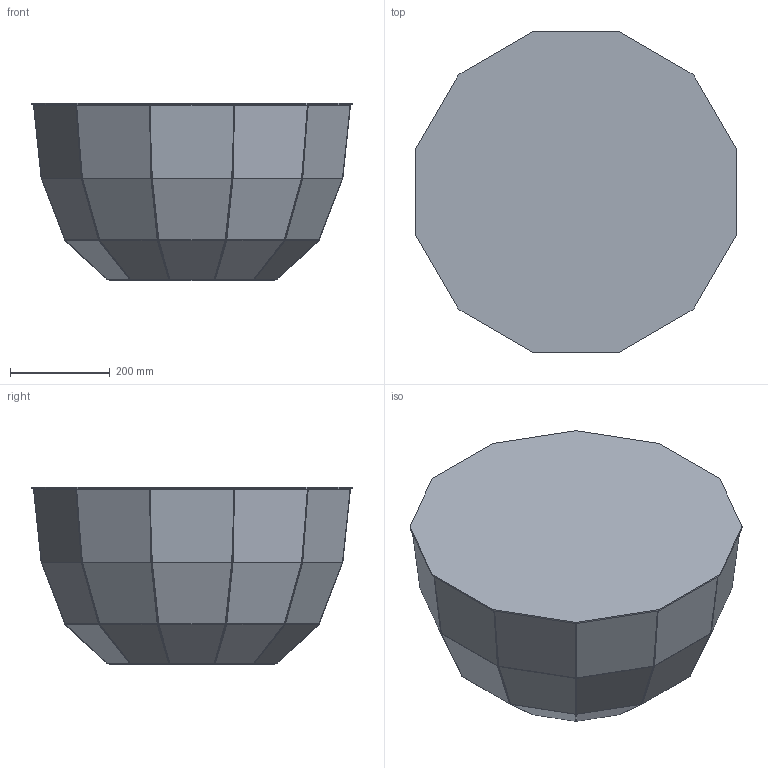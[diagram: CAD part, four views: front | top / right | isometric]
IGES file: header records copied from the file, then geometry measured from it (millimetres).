
Start section: Comment
Global section: file name: Martini-Sidetable - 35 - Rund.igs; native system:  By UGS Corp.; preprocessor: XPlus GENERIC/IGES 3.0; author: Author; organization: Title; date: 20181129.154111; units: inch
Bounding box: 642 x 642 x 355.6 mm (x, y, z)
Surface area: 2605834 mm2 (no closed solid volume)
Topology: 0 solids, 0 shells, 1852 faces, 10116 edges, 10116 vertices
Faces by surface type: bspline 1852
